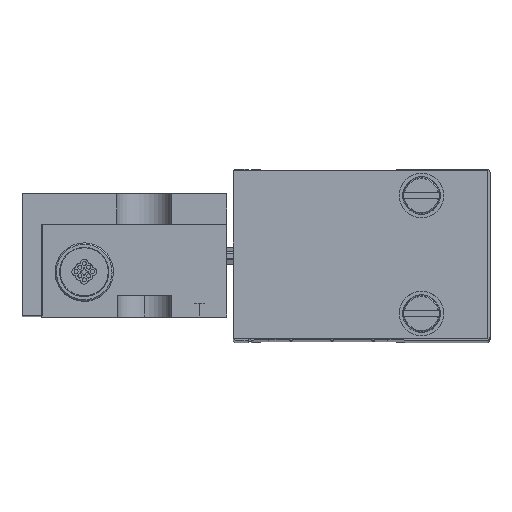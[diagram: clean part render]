
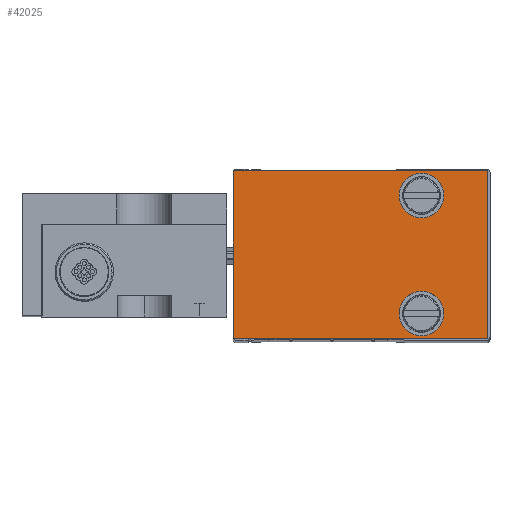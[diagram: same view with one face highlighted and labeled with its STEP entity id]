
A CAD part, top view. The second image highlights one B-rep face of the part: STEP entity #42025.
In plain terms, the highlighted planar face has unit normal (0, 0, 1).
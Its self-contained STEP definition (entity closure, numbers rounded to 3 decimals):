
#191 = DIRECTION ( 'NONE',  ( 0., -1., 0. ) ) ;
#1279 = VERTEX_POINT ( 'NONE', #4308 ) ;
#1858 = EDGE_CURVE ( 'NONE', #63456, #24781, #46919, .T. ) ;
#3274 = DIRECTION ( 'NONE',  ( 0., -1., 0. ) ) ;
#4308 = CARTESIAN_POINT ( 'NONE',  ( 257.629, 238.539, 208.844 ) ) ;
#4377 = ORIENTED_EDGE ( 'NONE', *, *, #56074, .F. ) ;
#6652 = DIRECTION ( 'NONE',  ( 0., -1., 0. ) ) ;
#7019 = PLANE ( 'NONE',  #75692 ) ;
#8782 = ORIENTED_EDGE ( 'NONE', *, *, #52950, .F. ) ;
#9418 = CIRCLE ( 'NONE', #52845, 3.25 ) ;
#9696 = CIRCLE ( 'NONE', #75495, 3.25 ) ;
#11191 = DIRECTION ( 'NONE',  ( 0., 0., 1. ) ) ;
#11527 = DIRECTION ( 'NONE',  ( 0., 0., 1. ) ) ;
#12432 = CARTESIAN_POINT ( 'NONE',  ( 257.629, 255.739, 208.844 ) ) ;
#12496 = FACE_OUTER_BOUND ( 'NONE', #55043, .T. ) ;
#17594 = ORIENTED_EDGE ( 'NONE', *, *, #66949, .F. ) ;
#18191 = CARTESIAN_POINT ( 'NONE',  ( 230.229, 231.689, 208.844 ) ) ;
#19768 = VECTOR ( 'NONE', #67689, 1000. ) ;
#21593 = LINE ( 'NONE', #49028, #75854 ) ;
#23550 = LINE ( 'NONE', #39810, #42372 ) ;
#24285 = VERTEX_POINT ( 'NONE', #84950 ) ;
#24781 = VERTEX_POINT ( 'NONE', #12432 ) ;
#26769 = CARTESIAN_POINT ( 'NONE',  ( 230.229, 231.689, 208.844 ) ) ;
#30818 = ORIENTED_EDGE ( 'NONE', *, *, #74179, .F. ) ;
#30892 = EDGE_LOOP ( 'NONE', ( #37445, #8782 ) ) ;
#31541 = AXIS2_PLACEMENT_3D ( 'NONE', #53929, #11527, #61007 ) ;
#31926 = VERTEX_POINT ( 'NONE', #35483 ) ;
#35291 = CIRCLE ( 'NONE', #31541, 3.25 ) ;
#35483 = CARTESIAN_POINT ( 'NONE',  ( 267.229, 256.089, 208.844 ) ) ;
#36261 = EDGE_CURVE ( 'NONE', #68682, #31926, #23550, .T. ) ;
#37445 = ORIENTED_EDGE ( 'NONE', *, *, #1858, .F. ) ;
#39810 = CARTESIAN_POINT ( 'NONE',  ( 230.229, 256.089, 208.844 ) ) ;
#41650 = CARTESIAN_POINT ( 'NONE',  ( 257.629, 252.489, 208.844 ) ) ;
#42025 = ADVANCED_FACE ( 'NONE', ( #87842, #68982, #12496 ), #7019, .T. ) ;
#42372 = VECTOR ( 'NONE', #54108, 1000. ) ;
#42541 = DIRECTION ( 'NONE',  ( 0., 0., 1. ) ) ;
#45642 = DIRECTION ( 'NONE',  ( 0., 0., 1. ) ) ;
#46729 = VECTOR ( 'NONE', #76251, 1000. ) ;
#46919 = CIRCLE ( 'NONE', #79839, 3.25 ) ;
#48554 = VERTEX_POINT ( 'NONE', #56253 ) ;
#48819 = DIRECTION ( 'NONE',  ( 0., -1., 0. ) ) ;
#49028 = CARTESIAN_POINT ( 'NONE',  ( 267.229, 231.689, 208.844 ) ) ;
#52845 = AXIS2_PLACEMENT_3D ( 'NONE', #41650, #91248, #48819 ) ;
#52950 = EDGE_CURVE ( 'NONE', #24781, #63456, #9418, .T. ) ;
#53600 = CARTESIAN_POINT ( 'NONE',  ( 257.629, 235.289, 208.844 ) ) ;
#53929 = CARTESIAN_POINT ( 'NONE',  ( 257.629, 235.289, 208.844 ) ) ;
#54108 = DIRECTION ( 'NONE',  ( 1., 0., 0. ) ) ;
#55043 = EDGE_LOOP ( 'NONE', ( #17594, #61875, #70759, #4377 ) ) ;
#56074 = EDGE_CURVE ( 'NONE', #24285, #68682, #57456, .T. ) ;
#56253 = CARTESIAN_POINT ( 'NONE',  ( 267.229, 231.689, 208.844 ) ) ;
#57456 = LINE ( 'NONE', #18191, #19768 ) ;
#59885 = EDGE_LOOP ( 'NONE', ( #64338, #30818 ) ) ;
#60107 = CARTESIAN_POINT ( 'NONE',  ( 257.629, 249.239, 208.844 ) ) ;
#60672 = DIRECTION ( 'NONE',  ( 0., -1., 0. ) ) ;
#61007 = DIRECTION ( 'NONE',  ( 0., -1., 0. ) ) ;
#61875 = ORIENTED_EDGE ( 'NONE', *, *, #86760, .F. ) ;
#63456 = VERTEX_POINT ( 'NONE', #60107 ) ;
#64338 = ORIENTED_EDGE ( 'NONE', *, *, #69202, .F. ) ;
#64479 = VERTEX_POINT ( 'NONE', #66011 ) ;
#66011 = CARTESIAN_POINT ( 'NONE',  ( 257.629, 232.039, 208.844 ) ) ;
#66949 = EDGE_CURVE ( 'NONE', #48554, #24285, #84370, .T. ) ;
#67689 = DIRECTION ( 'NONE',  ( 0., 1., 0. ) ) ;
#68682 = VERTEX_POINT ( 'NONE', #83389 ) ;
#68982 = FACE_BOUND ( 'NONE', #30892, .T. ) ;
#69202 = EDGE_CURVE ( 'NONE', #64479, #1279, #9696, .T. ) ;
#70759 = ORIENTED_EDGE ( 'NONE', *, *, #36261, .F. ) ;
#74179 = EDGE_CURVE ( 'NONE', #1279, #64479, #35291, .T. ) ;
#75495 = AXIS2_PLACEMENT_3D ( 'NONE', #53600, #11191, #60672 ) ;
#75692 = AXIS2_PLACEMENT_3D ( 'NONE', #84957, #42541, #191 ) ;
#75854 = VECTOR ( 'NONE', #6652, 1000. ) ;
#76251 = DIRECTION ( 'NONE',  ( -1., 0., 0. ) ) ;
#79839 = AXIS2_PLACEMENT_3D ( 'NONE', #88045, #45642, #3274 ) ;
#83389 = CARTESIAN_POINT ( 'NONE',  ( 230.229, 256.089, 208.844 ) ) ;
#84370 = LINE ( 'NONE', #26769, #46729 ) ;
#84950 = CARTESIAN_POINT ( 'NONE',  ( 230.229, 231.689, 208.844 ) ) ;
#84957 = CARTESIAN_POINT ( 'NONE',  ( 230.229, 231.689, 208.844 ) ) ;
#86760 = EDGE_CURVE ( 'NONE', #31926, #48554, #21593, .T. ) ;
#87842 = FACE_BOUND ( 'NONE', #59885, .T. ) ;
#88045 = CARTESIAN_POINT ( 'NONE',  ( 257.629, 252.489, 208.844 ) ) ;
#91248 = DIRECTION ( 'NONE',  ( 0., 0., 1. ) ) ;
